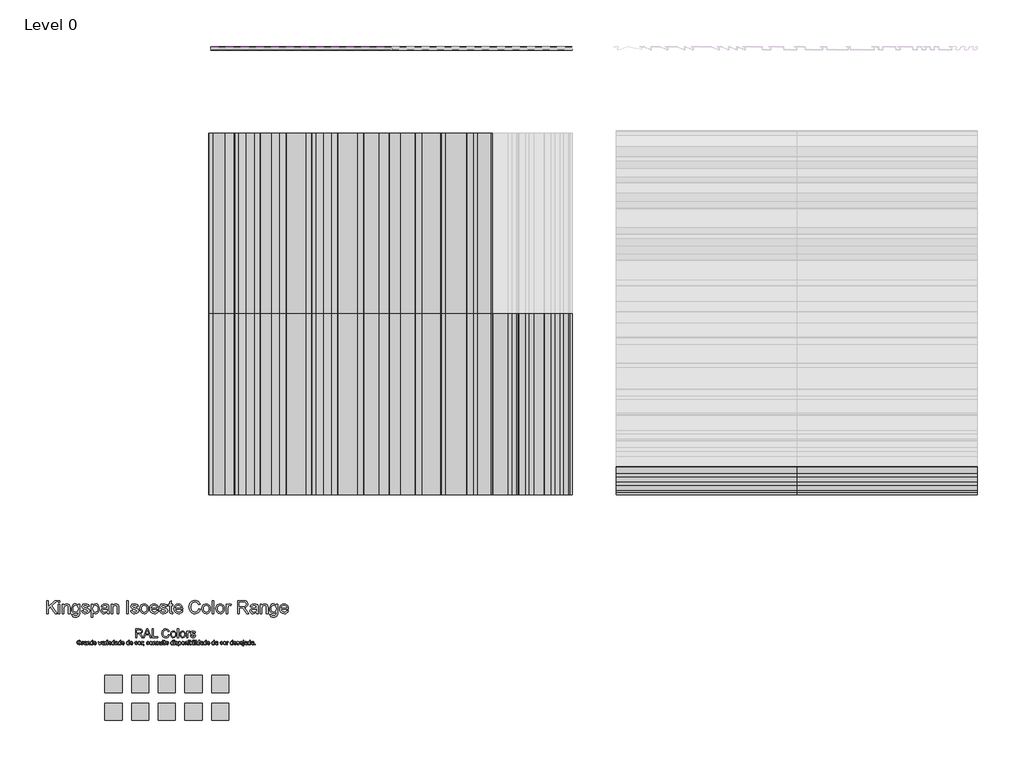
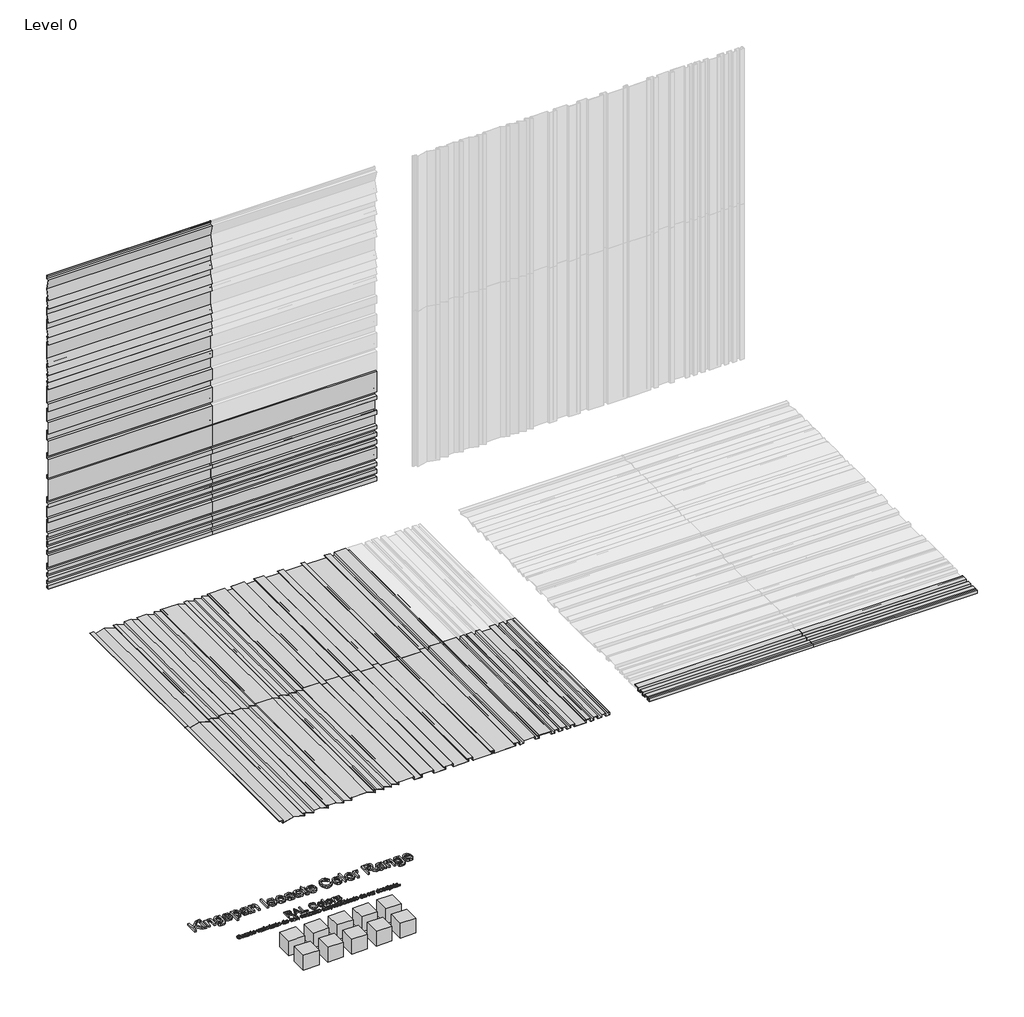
# One storey, part 1 of 2: 57 proxies.
"""IFC4 building model written with IfcOpenShell, lengths in millimetres."""

from ifc_helpers import new_model, si_unit, origin, place, context, project, spatial, transform, mapped, element, save
from components import proxy_32_ks_iso_colour_range_8220f766, proxy_32_ks_iso_colour_range_06d69407, ks_colour_sample_ks_colour_sample_0243efec, mx1_0_standard_panel_ns_afae810e, mx1_0_standard_panel_ns_dc5b759f, mx10_0_standard_panel_ns_11ffd0d8, mx10_0_standard_panel_ns_1686077b, mx11_0_standard_panel_ns_7b6c7506, mx11_0_standard_panel_ns_816acfb4, mx2_0_standard_panel_ns_31f8ef59, mx2_0_standard_panel_ns_8073d0a4, mx3_0_standard_panel_ns_184cfff8, mx3_0_standard_panel_ns_9c684af8, mx4_0_standard_panel_ns_50b23f36, mx4_0_standard_panel_ns_1fe548eb, mx7_0_standard_panel_ns_a6cb7541, mx7_0_standard_panel_ns_ed4f422e, mx8_0_standard_panel_ns_97240bc2, mx8_0_standard_panel_ns_d4d0994c, mx9_0_standard_panel_ns_4979d104, mx9_0_standard_panel_ns_2f6deb61, ps1_0_standard_panel_ns_bf2b593f, ps1_0_standard_panel_ns_1c35b6c5, ps2_0_standard_panel_ns_86166604, ps2_0_standard_panel_ns_643a3163, ps3_0_standard_panel_ns_63d88878, ps3_0_standard_panel_ns_83fd88ae, ps4_0_standard_panel_ns_dd7b3ee9, ps4_0_standard_panel_ns_3b503408, ps9_0_standard_panel_ns_52e81e55, ps9_0_standard_panel_ns_6eacb7c6

model = new_model("IFC4")

# Units and contexts
model_context = context("Model", 3, world=origin())
ifc_project = project(units=[si_unit("LENGTHUNIT", "METRE", prefix="MILLI")], contexts=[model_context])

# Site, building, storey
site = spatial("IfcSite", under=ifc_project)
building = spatial("IfcBuilding", under=site)
storey = spatial("IfcBuildingStorey", under=building, Name="Level 0", Elevation=0.0)

# Proxies
placement = place(None, origin())
proxy_32_ks_iso_colour_range_shape = proxy_32_ks_iso_colour_range_8220f766(model_context)
proxy_32_ks_iso_colour_range_2_shape = proxy_32_ks_iso_colour_range_06d69407(model_context)
element("IfcBuildingElementProxy", 1, Name="32-KS-ISO-Colour Range : Kingspan Isoeste Color Range", ObjectType="32-KS-ISO-Colour Range : Kingspan Isoeste Color Range", at=placement, inside=storey, context=model_context, shape_type="MappedRepresentation", body=[
    mapped(proxy_32_ks_iso_colour_range_shape, transform((-3929.8390717, -2223.0925896, 0.0), x_axis=(1.0, 0.0, 0.0), y_axis=(0.0, 1.0, 0.0), z_axis=(0.0, 0.0, 1.0))),
    mapped(proxy_32_ks_iso_colour_range_2_shape, transform((-3929.8390717, -2223.0925896, 0.0), x_axis=(1.0, 0.0, 0.0), y_axis=(0.0, 1.0, 0.0), z_axis=(0.0, 0.0, 1.0))),
])
ks_colour_sample_ks_colour_sample_shape = ks_colour_sample_ks_colour_sample_0243efec(model_context)
element("IfcBuildingElementProxy", 2, Name="KS_Colour Sample : KS_Colour Sample", ObjectType="KS_Colour Sample : KS_Colour Sample", at=placement, inside=storey, context=model_context, shape_type="MappedRepresentation", body=[
    mapped(ks_colour_sample_ks_colour_sample_shape, transform((-3309.8390717, -2663.0925896, 0.0), x_axis=(1.0, 0.0, 0.0), y_axis=(0.0, 1.0, 0.0), z_axis=(0.0, 0.0, 1.0))),
])
element("IfcBuildingElementProxy", 3, Name="KS_Colour Sample : KS_Colour Sample", ObjectType="KS_Colour Sample : KS_Colour Sample", at=placement, inside=storey, context=model_context, shape_type="MappedRepresentation", body=[
    mapped(ks_colour_sample_ks_colour_sample_shape, transform((-3309.8390717, -2343.0925896, 0.0), x_axis=(1.0, 0.0, 0.0), y_axis=(0.0, 1.0, 0.0), z_axis=(0.0, 0.0, 1.0))),
])
element("IfcBuildingElementProxy", 4, Name="KS_Colour Sample : KS_Colour Sample", ObjectType="KS_Colour Sample : KS_Colour Sample", at=placement, inside=storey, context=model_context, shape_type="MappedRepresentation", body=[
    mapped(ks_colour_sample_ks_colour_sample_shape, transform((-4549.8390717, -2663.0925896, 0.0), x_axis=(1.0, 0.0, 0.0), y_axis=(0.0, 1.0, 0.0), z_axis=(0.0, 0.0, 1.0))),
])
element("IfcBuildingElementProxy", 5, Name="KS_Colour Sample : KS_Colour Sample", ObjectType="KS_Colour Sample : KS_Colour Sample", at=placement, inside=storey, context=model_context, shape_type="MappedRepresentation", body=[
    mapped(ks_colour_sample_ks_colour_sample_shape, transform((-4239.8390717, -2663.0925896, 0.0), x_axis=(1.0, 0.0, 0.0), y_axis=(0.0, 1.0, 0.0), z_axis=(0.0, 0.0, 1.0))),
])
element("IfcBuildingElementProxy", 6, Name="KS_Colour Sample : KS_Colour Sample", ObjectType="KS_Colour Sample : KS_Colour Sample", at=placement, inside=storey, context=model_context, shape_type="MappedRepresentation", body=[
    mapped(ks_colour_sample_ks_colour_sample_shape, transform((-3619.8390717, -2663.0925896, 0.0), x_axis=(1.0, 0.0, 0.0), y_axis=(0.0, 1.0, 0.0), z_axis=(0.0, 0.0, 1.0))),
])
element("IfcBuildingElementProxy", 7, Name="KS_Colour Sample : KS_Colour Sample", ObjectType="KS_Colour Sample : KS_Colour Sample", at=placement, inside=storey, context=model_context, shape_type="MappedRepresentation", body=[
    mapped(ks_colour_sample_ks_colour_sample_shape, transform((-4549.8390717, -2343.0925896, 0.0), x_axis=(1.0, 0.0, 0.0), y_axis=(0.0, 1.0, 0.0), z_axis=(0.0, 0.0, 1.0))),
])
element("IfcBuildingElementProxy", 8, Name="KS_Colour Sample : KS_Colour Sample", ObjectType="KS_Colour Sample : KS_Colour Sample", at=placement, inside=storey, context=model_context, shape_type="MappedRepresentation", body=[
    mapped(ks_colour_sample_ks_colour_sample_shape, transform((-4239.8390717, -2343.0925896, 0.0), x_axis=(1.0, 0.0, 0.0), y_axis=(0.0, 1.0, 0.0), z_axis=(0.0, 0.0, 1.0))),
])
element("IfcBuildingElementProxy", 9, Name="KS_Colour Sample : KS_Colour Sample", ObjectType="KS_Colour Sample : KS_Colour Sample", at=placement, inside=storey, context=model_context, shape_type="MappedRepresentation", body=[
    mapped(ks_colour_sample_ks_colour_sample_shape, transform((-3619.8390717, -2343.0925896, 0.0), x_axis=(1.0, 0.0, 0.0), y_axis=(0.0, 1.0, 0.0), z_axis=(0.0, 0.0, 1.0))),
])
element("IfcBuildingElementProxy", 10, Name="KS_Colour Sample : KS_Colour Sample", ObjectType="KS_Colour Sample : KS_Colour Sample", at=placement, inside=storey, context=model_context, shape_type="MappedRepresentation", body=[
    mapped(ks_colour_sample_ks_colour_sample_shape, transform((-3929.8390717, -2343.0925896, 0.0), x_axis=(1.0, 0.0, 0.0), y_axis=(0.0, 1.0, 0.0), z_axis=(0.0, 0.0, 1.0))),
])
element("IfcBuildingElementProxy", 11, Name="KS_Colour Sample : KS_Colour Sample", ObjectType="KS_Colour Sample : KS_Colour Sample", at=placement, inside=storey, context=model_context, shape_type="MappedRepresentation", body=[
    mapped(ks_colour_sample_ks_colour_sample_shape, transform((-3929.8390717, -2663.0925896, 0.0), x_axis=(1.0, 0.0, 0.0), y_axis=(0.0, 1.0, 0.0), z_axis=(0.0, 0.0, 1.0))),
])
mx1_0_standard_panel_ns_shape = mx1_0_standard_panel_ns_afae810e(model_context)
element("IfcBuildingElementProxy", 12, Name="MX1.0 : Standard Panel_NS", ObjectType="MX1.0 : Standard Panel_NS", at=placement, inside=storey, context=model_context, shape_type="MappedRepresentation", body=[
    mapped(mx1_0_standard_panel_ns_shape, transform((-3417.7637295, 5063.0274074, 0.0), x_axis=(1.0, 0.0, 0.0), y_axis=(0.0, 0.0, 1.0), z_axis=(0.0, -1.0, 0.0))),
])
element("IfcBuildingElementProxy", 13, Name="MX1.0 : Standard Panel_NS", ObjectType="MX1.0 : Standard Panel_NS", at=placement, inside=storey, context=model_context, shape_type="MappedRepresentation", body=[
    mapped(mx1_0_standard_panel_ns_shape, transform((-1317.7637295, 5063.0274074, 0.0), x_axis=(1.0, 0.0, 0.0), y_axis=(0.0, 0.0, 1.0), z_axis=(0.0, -1.0, 0.0))),
])
mx1_0_standard_panel_ns_2_shape = mx1_0_standard_panel_ns_dc5b759f(model_context)
element("IfcBuildingElementProxy", 14, Name="MX1.0 : Standard Panel_NS", ObjectType="MX1.0 : Standard Panel_NS", at=placement, inside=storey, context=model_context, shape_type="MappedRepresentation", body=[
    mapped(mx1_0_standard_panel_ns_2_shape, transform((1289.7088668, -141.6886547, 0.0), x_axis=(1.0, 0.0, 0.0), y_axis=(0.0, 1.0, 0.0), z_axis=(0.0, 0.0, 1.0))),
])
element("IfcBuildingElementProxy", 15, Name="MX1.0 : Standard Panel_NS", ObjectType="MX1.0 : Standard Panel_NS", at=placement, inside=storey, context=model_context, shape_type="MappedRepresentation", body=[
    mapped(mx1_0_standard_panel_ns_2_shape, transform((3389.7088668, -141.6886547, 0.0), x_axis=(1.0, 0.0, 0.0), y_axis=(0.0, 1.0, 0.0), z_axis=(0.0, 0.0, 1.0))),
])
element("IfcBuildingElementProxy", 16, Name="MX1.0 : Standard Panel_NS", ObjectType="MX1.0 : Standard Panel_NS", at=placement, inside=storey, context=model_context, shape_type="MappedRepresentation", body=[
    mapped(mx1_0_standard_panel_ns_2_shape, transform((782.2362705, -141.6886547, 0.0), x_axis=(0.0, 1.0, 0.0), y_axis=(-1.0, 0.0, 0.0), z_axis=(0.0, 0.0, 1.0))),
])
mx10_0_standard_panel_ns_shape = mx10_0_standard_panel_ns_11ffd0d8(model_context)
element("IfcBuildingElementProxy", 17, Name="MX10.0 : Standard Panel_NS", ObjectType="MX10.0 : Standard Panel_NS", at=placement, inside=storey, context=model_context, shape_type="MappedRepresentation", body=[
    mapped(mx10_0_standard_panel_ns_shape, transform((-3417.7637295, 5063.0274074, 2100.0), x_axis=(1.0, 0.0, 0.0), y_axis=(0.0, 0.0, 1.0), z_axis=(0.0, -1.0, 0.0))),
])
mx10_0_standard_panel_ns_2_shape = mx10_0_standard_panel_ns_1686077b(model_context)
element("IfcBuildingElementProxy", 18, Name="MX10.0 : Standard Panel_NS", ObjectType="MX10.0 : Standard Panel_NS", at=placement, inside=storey, context=model_context, shape_type="MappedRepresentation", body=[
    mapped(mx10_0_standard_panel_ns_2_shape, transform((-1317.7637297, -141.6886547, 0.0), x_axis=(0.0, 1.0, 0.0), y_axis=(-1.0, 0.0, 0.0), z_axis=(0.0, 0.0, 1.0))),
])
element("IfcBuildingElementProxy", 19, Name="MX10.0 : Standard Panel_NS", ObjectType="MX10.0 : Standard Panel_NS", at=placement, inside=storey, context=model_context, shape_type="MappedRepresentation", body=[
    mapped(mx10_0_standard_panel_ns_2_shape, transform((-1317.7637297, 1958.3113453, 0.0), x_axis=(0.0, 1.0, 0.0), y_axis=(-1.0, 0.0, 0.0), z_axis=(0.0, 0.0, 1.0))),
])
mx11_0_standard_panel_ns_shape = mx11_0_standard_panel_ns_7b6c7506(model_context)
element("IfcBuildingElementProxy", 20, Name="MX11.0 : Standard Panel_NS", ObjectType="MX11.0 : Standard Panel_NS", at=placement, inside=storey, context=model_context, shape_type="MappedRepresentation", body=[
    mapped(mx11_0_standard_panel_ns_shape, transform((-3417.7637295, 5063.0274074, 2400.0), x_axis=(1.0, 0.0, 0.0), y_axis=(0.0, 0.0, 1.0), z_axis=(0.0, -1.0, 0.0))),
])
mx11_0_standard_panel_ns_2_shape = mx11_0_standard_panel_ns_816acfb4(model_context)
element("IfcBuildingElementProxy", 21, Name="MX11.0 : Standard Panel_NS", ObjectType="MX11.0 : Standard Panel_NS", at=placement, inside=storey, context=model_context, shape_type="MappedRepresentation", body=[
    mapped(mx11_0_standard_panel_ns_2_shape, transform((-1617.7637297, -141.6886547, 0.0), x_axis=(0.0, 1.0, 0.0), y_axis=(-1.0, 0.0, 0.0), z_axis=(0.0, 0.0, 1.0))),
])
element("IfcBuildingElementProxy", 22, Name="MX11.0 : Standard Panel_NS", ObjectType="MX11.0 : Standard Panel_NS", at=placement, inside=storey, context=model_context, shape_type="MappedRepresentation", body=[
    mapped(mx11_0_standard_panel_ns_2_shape, transform((-1617.7637297, 1958.3113453, 0.0), x_axis=(0.0, 1.0, 0.0), y_axis=(-1.0, 0.0, 0.0), z_axis=(0.0, 0.0, 1.0))),
])
mx2_0_standard_panel_ns_shape = mx2_0_standard_panel_ns_31f8ef59(model_context)
element("IfcBuildingElementProxy", 23, Name="MX2.0 : Standard Panel_NS", ObjectType="MX2.0 : Standard Panel_NS", at=placement, inside=storey, context=model_context, shape_type="MappedRepresentation", body=[
    mapped(mx2_0_standard_panel_ns_shape, transform((-3417.7637295, 5063.0274074, 300.0), x_axis=(1.0, 0.0, 0.0), y_axis=(0.0, 0.0, 1.0), z_axis=(0.0, -1.0, 0.0))),
])
element("IfcBuildingElementProxy", 24, Name="MX2.0 : Standard Panel_NS", ObjectType="MX2.0 : Standard Panel_NS", at=placement, inside=storey, context=model_context, shape_type="MappedRepresentation", body=[
    mapped(mx2_0_standard_panel_ns_shape, transform((-1317.7637295, 5063.0274074, 300.0), x_axis=(1.0, 0.0, 0.0), y_axis=(0.0, 0.0, 1.0), z_axis=(0.0, -1.0, 0.0))),
])
mx2_0_standard_panel_ns_2_shape = mx2_0_standard_panel_ns_8073d0a4(model_context)
element("IfcBuildingElementProxy", 25, Name="MX2.0 : Standard Panel_NS", ObjectType="MX2.0 : Standard Panel_NS", at=placement, inside=storey, context=model_context, shape_type="MappedRepresentation", body=[
    mapped(mx2_0_standard_panel_ns_2_shape, transform((482.2362703, -141.6886547, 0.0), x_axis=(0.0, 1.0, 0.0), y_axis=(-1.0, 0.0, 0.0), z_axis=(0.0, 0.0, 1.0))),
])
mx3_0_standard_panel_ns_shape = mx3_0_standard_panel_ns_184cfff8(model_context)
element("IfcBuildingElementProxy", 26, Name="MX3.0 : Standard Panel_NS", ObjectType="MX3.0 : Standard Panel_NS", at=placement, inside=storey, context=model_context, shape_type="MappedRepresentation", body=[
    mapped(mx3_0_standard_panel_ns_shape, transform((-3417.7637295, 5063.0274074, 600.0), x_axis=(1.0, 0.0, 0.0), y_axis=(0.0, 0.0, 1.0), z_axis=(0.0, -1.0, 0.0))),
])
element("IfcBuildingElementProxy", 27, Name="MX3.0 : Standard Panel_NS", ObjectType="MX3.0 : Standard Panel_NS", at=placement, inside=storey, context=model_context, shape_type="MappedRepresentation", body=[
    mapped(mx3_0_standard_panel_ns_shape, transform((-1317.7637295, 5063.0274074, 600.0), x_axis=(1.0, 0.0, 0.0), y_axis=(0.0, 0.0, 1.0), z_axis=(0.0, -1.0, 0.0))),
])
mx3_0_standard_panel_ns_2_shape = mx3_0_standard_panel_ns_9c684af8(model_context)
element("IfcBuildingElementProxy", 28, Name="MX3.0 : Standard Panel_NS", ObjectType="MX3.0 : Standard Panel_NS", at=placement, inside=storey, context=model_context, shape_type="MappedRepresentation", body=[
    mapped(mx3_0_standard_panel_ns_2_shape, transform((182.2362703, -141.6886547, 0.0), x_axis=(0.0, 1.0, 0.0), y_axis=(-1.0, 0.0, 0.0), z_axis=(0.0, 0.0, 1.0))),
])
mx4_0_standard_panel_ns_shape = mx4_0_standard_panel_ns_50b23f36(model_context)
element("IfcBuildingElementProxy", 29, Name="MX4.0 : Standard Panel_NS", ObjectType="MX4.0 : Standard Panel_NS", at=placement, inside=storey, context=model_context, shape_type="MappedRepresentation", body=[
    mapped(mx4_0_standard_panel_ns_shape, transform((-3417.7637295, 5063.0274074, 900.0), x_axis=(1.0, 0.0, 0.0), y_axis=(0.0, 0.0, 1.0), z_axis=(0.0, -1.0, 0.0))),
])
element("IfcBuildingElementProxy", 30, Name="MX4.0 : Standard Panel_NS", ObjectType="MX4.0 : Standard Panel_NS", at=placement, inside=storey, context=model_context, shape_type="MappedRepresentation", body=[
    mapped(mx4_0_standard_panel_ns_shape, transform((-1317.7637295, 5063.0274074, 900.0), x_axis=(1.0, 0.0, 0.0), y_axis=(0.0, 0.0, 1.0), z_axis=(0.0, -1.0, 0.0))),
])
mx4_0_standard_panel_ns_2_shape = mx4_0_standard_panel_ns_1fe548eb(model_context)
element("IfcBuildingElementProxy", 31, Name="MX4.0 : Standard Panel_NS", ObjectType="MX4.0 : Standard Panel_NS", at=placement, inside=storey, context=model_context, shape_type="MappedRepresentation", body=[
    mapped(mx4_0_standard_panel_ns_2_shape, transform((-117.7637297, -141.6886547, 0.0), x_axis=(0.0, 1.0, 0.0), y_axis=(-1.0, 0.0, 0.0), z_axis=(0.0, 0.0, 1.0))),
])
element("IfcBuildingElementProxy", 32, Name="MX4.0 : Standard Panel_NS", ObjectType="MX4.0 : Standard Panel_NS", at=placement, inside=storey, context=model_context, shape_type="MappedRepresentation", body=[
    mapped(mx4_0_standard_panel_ns_2_shape, transform((-117.7637297, 1958.3113453, 0.0), x_axis=(0.0, 1.0, 0.0), y_axis=(-1.0, 0.0, 0.0), z_axis=(0.0, 0.0, 1.0))),
])
mx7_0_standard_panel_ns_shape = mx7_0_standard_panel_ns_a6cb7541(model_context)
element("IfcBuildingElementProxy", 33, Name="MX7.0 : Standard Panel_NS", ObjectType="MX7.0 : Standard Panel_NS", at=placement, inside=storey, context=model_context, shape_type="MappedRepresentation", body=[
    mapped(mx7_0_standard_panel_ns_shape, transform((-3417.7637295, 5063.0274074, 1200.0), x_axis=(1.0, 0.0, 0.0), y_axis=(0.0, 0.0, 1.0), z_axis=(0.0, -1.0, 0.0))),
])
element("IfcBuildingElementProxy", 34, Name="MX7.0 : Standard Panel_NS", ObjectType="MX7.0 : Standard Panel_NS", at=placement, inside=storey, context=model_context, shape_type="MappedRepresentation", body=[
    mapped(mx7_0_standard_panel_ns_shape, transform((-1317.7637295, 5063.0274074, 1200.0), x_axis=(1.0, 0.0, 0.0), y_axis=(0.0, 0.0, 1.0), z_axis=(0.0, -1.0, 0.0))),
])
mx7_0_standard_panel_ns_2_shape = mx7_0_standard_panel_ns_ed4f422e(model_context)
element("IfcBuildingElementProxy", 35, Name="MX7.0 : Standard Panel_NS", ObjectType="MX7.0 : Standard Panel_NS", at=placement, inside=storey, context=model_context, shape_type="MappedRepresentation", body=[
    mapped(mx7_0_standard_panel_ns_2_shape, transform((-417.7637297, -141.6886547, 0.0), x_axis=(0.0, 1.0, 0.0), y_axis=(-1.0, 0.0, 0.0), z_axis=(0.0, 0.0, 1.0))),
])
element("IfcBuildingElementProxy", 36, Name="MX7.0 : Standard Panel_NS", ObjectType="MX7.0 : Standard Panel_NS", at=placement, inside=storey, context=model_context, shape_type="MappedRepresentation", body=[
    mapped(mx7_0_standard_panel_ns_2_shape, transform((-417.7637297, 1958.3113453, 0.0), x_axis=(0.0, 1.0, 0.0), y_axis=(-1.0, 0.0, 0.0), z_axis=(0.0, 0.0, 1.0))),
])
mx8_0_standard_panel_ns_shape = mx8_0_standard_panel_ns_97240bc2(model_context)
element("IfcBuildingElementProxy", 37, Name="MX8.0 : Standard Panel_NS", ObjectType="MX8.0 : Standard Panel_NS", at=placement, inside=storey, context=model_context, shape_type="MappedRepresentation", body=[
    mapped(mx8_0_standard_panel_ns_shape, transform((-3417.7637295, 5063.0274074, 1500.0), x_axis=(1.0, 0.0, 0.0), y_axis=(0.0, 0.0, 1.0), z_axis=(0.0, -1.0, 0.0))),
])
mx8_0_standard_panel_ns_2_shape = mx8_0_standard_panel_ns_d4d0994c(model_context)
element("IfcBuildingElementProxy", 38, Name="MX8.0 : Standard Panel_NS", ObjectType="MX8.0 : Standard Panel_NS", at=placement, inside=storey, context=model_context, shape_type="MappedRepresentation", body=[
    mapped(mx8_0_standard_panel_ns_2_shape, transform((-717.7637297, -141.6886547, 0.0), x_axis=(0.0, 1.0, 0.0), y_axis=(-1.0, 0.0, 0.0), z_axis=(0.0, 0.0, 1.0))),
])
element("IfcBuildingElementProxy", 39, Name="MX8.0 : Standard Panel_NS", ObjectType="MX8.0 : Standard Panel_NS", at=placement, inside=storey, context=model_context, shape_type="MappedRepresentation", body=[
    mapped(mx8_0_standard_panel_ns_2_shape, transform((-717.7637297, 1958.3113453, 0.0), x_axis=(0.0, 1.0, 0.0), y_axis=(-1.0, 0.0, 0.0), z_axis=(0.0, 0.0, 1.0))),
])
mx9_0_standard_panel_ns_shape = mx9_0_standard_panel_ns_4979d104(model_context)
element("IfcBuildingElementProxy", 40, Name="MX9.0 : Standard Panel_NS", ObjectType="MX9.0 : Standard Panel_NS", at=placement, inside=storey, context=model_context, shape_type="MappedRepresentation", body=[
    mapped(mx9_0_standard_panel_ns_shape, transform((-3417.7637295, 5063.0274074, 1800.0), x_axis=(1.0, 0.0, 0.0), y_axis=(0.0, 0.0, 1.0), z_axis=(0.0, -1.0, 0.0))),
])
mx9_0_standard_panel_ns_2_shape = mx9_0_standard_panel_ns_2f6deb61(model_context)
element("IfcBuildingElementProxy", 41, Name="MX9.0 : Standard Panel_NS", ObjectType="MX9.0 : Standard Panel_NS", at=placement, inside=storey, context=model_context, shape_type="MappedRepresentation", body=[
    mapped(mx9_0_standard_panel_ns_2_shape, transform((-1017.7637297, -141.6886547, 0.0), x_axis=(0.0, 1.0, 0.0), y_axis=(-1.0, 0.0, 0.0), z_axis=(0.0, 0.0, 1.0))),
])
element("IfcBuildingElementProxy", 42, Name="MX9.0 : Standard Panel_NS", ObjectType="MX9.0 : Standard Panel_NS", at=placement, inside=storey, context=model_context, shape_type="MappedRepresentation", body=[
    mapped(mx9_0_standard_panel_ns_2_shape, transform((-1017.7637297, 1958.3113453, 0.0), x_axis=(0.0, 1.0, 0.0), y_axis=(-1.0, 0.0, 0.0), z_axis=(0.0, 0.0, 1.0))),
])
ps1_0_standard_panel_ns_shape = ps1_0_standard_panel_ns_bf2b593f(model_context)
element("IfcBuildingElementProxy", 43, Name="PS1.0 : Standard Panel_NS", ObjectType="PS1.0 : Standard Panel_NS", at=placement, inside=storey, context=model_context, shape_type="MappedRepresentation", body=[
    mapped(ps1_0_standard_panel_ns_shape, transform((-3417.7637295, 5063.0274074, 2700.0), x_axis=(1.0, 0.0, 0.0), y_axis=(0.0, 0.0, 1.0), z_axis=(0.0, -1.0, 0.0))),
])
ps1_0_standard_panel_ns_2_shape = ps1_0_standard_panel_ns_1c35b6c5(model_context)
element("IfcBuildingElementProxy", 44, Name="PS1.0 : Standard Panel_NS", ObjectType="PS1.0 : Standard Panel_NS", at=placement, inside=storey, context=model_context, shape_type="MappedRepresentation", body=[
    mapped(ps1_0_standard_panel_ns_2_shape, transform((-1917.7637297, -141.6886547, 0.0), x_axis=(0.0, 1.0, 0.0), y_axis=(-1.0, 0.0, 0.0), z_axis=(0.0, 0.0, 1.0))),
])
element("IfcBuildingElementProxy", 45, Name="PS1.0 : Standard Panel_NS", ObjectType="PS1.0 : Standard Panel_NS", at=placement, inside=storey, context=model_context, shape_type="MappedRepresentation", body=[
    mapped(ps1_0_standard_panel_ns_2_shape, transform((-1917.7637297, 1958.3113453, 0.0), x_axis=(0.0, 1.0, 0.0), y_axis=(-1.0, 0.0, 0.0), z_axis=(0.0, 0.0, 1.0))),
])
ps2_0_standard_panel_ns_shape = ps2_0_standard_panel_ns_86166604(model_context)
element("IfcBuildingElementProxy", 46, Name="PS2.0 : Standard Panel_NS", ObjectType="PS2.0 : Standard Panel_NS", at=placement, inside=storey, context=model_context, shape_type="MappedRepresentation", body=[
    mapped(ps2_0_standard_panel_ns_shape, transform((-3417.7637295, 5063.0274074, 3000.0), x_axis=(1.0, 0.0, 0.0), y_axis=(0.0, 0.0, 1.0), z_axis=(0.0, -1.0, 0.0))),
])
ps2_0_standard_panel_ns_2_shape = ps2_0_standard_panel_ns_643a3163(model_context)
element("IfcBuildingElementProxy", 47, Name="PS2.0 : Standard Panel_NS", ObjectType="PS2.0 : Standard Panel_NS", at=placement, inside=storey, context=model_context, shape_type="MappedRepresentation", body=[
    mapped(ps2_0_standard_panel_ns_2_shape, transform((-2217.7637297, -141.6886547, 0.0), x_axis=(0.0, 1.0, 0.0), y_axis=(-1.0, 0.0, 0.0), z_axis=(0.0, 0.0, 1.0))),
])
element("IfcBuildingElementProxy", 48, Name="PS2.0 : Standard Panel_NS", ObjectType="PS2.0 : Standard Panel_NS", at=placement, inside=storey, context=model_context, shape_type="MappedRepresentation", body=[
    mapped(ps2_0_standard_panel_ns_2_shape, transform((-2217.7637297, 1958.3113453, 0.0), x_axis=(0.0, 1.0, 0.0), y_axis=(-1.0, 0.0, 0.0), z_axis=(0.0, 0.0, 1.0))),
])
ps3_0_standard_panel_ns_shape = ps3_0_standard_panel_ns_63d88878(model_context)
element("IfcBuildingElementProxy", 49, Name="PS3.0 : Standard Panel_NS", ObjectType="PS3.0 : Standard Panel_NS", at=placement, inside=storey, context=model_context, shape_type="MappedRepresentation", body=[
    mapped(ps3_0_standard_panel_ns_shape, transform((-3417.7637295, 5063.0274074, 3300.0), x_axis=(1.0, 0.0, 0.0), y_axis=(0.0, 0.0, 1.0), z_axis=(0.0, -1.0, 0.0))),
])
ps3_0_standard_panel_ns_2_shape = ps3_0_standard_panel_ns_83fd88ae(model_context)
element("IfcBuildingElementProxy", 50, Name="PS3.0 : Standard Panel_NS", ObjectType="PS3.0 : Standard Panel_NS", at=placement, inside=storey, context=model_context, shape_type="MappedRepresentation", body=[
    mapped(ps3_0_standard_panel_ns_2_shape, transform((-2517.7637297, -141.6886547, 0.0), x_axis=(0.0, 1.0, 0.0), y_axis=(-1.0, 0.0, 0.0), z_axis=(0.0, 0.0, 1.0))),
])
element("IfcBuildingElementProxy", 51, Name="PS3.0 : Standard Panel_NS", ObjectType="PS3.0 : Standard Panel_NS", at=placement, inside=storey, context=model_context, shape_type="MappedRepresentation", body=[
    mapped(ps3_0_standard_panel_ns_2_shape, transform((-2517.7637297, 1958.3113453, 0.0), x_axis=(0.0, 1.0, 0.0), y_axis=(-1.0, 0.0, 0.0), z_axis=(0.0, 0.0, 1.0))),
])
ps4_0_standard_panel_ns_shape = ps4_0_standard_panel_ns_dd7b3ee9(model_context)
element("IfcBuildingElementProxy", 52, Name="PS4.0 : Standard Panel_NS", ObjectType="PS4.0 : Standard Panel_NS", at=placement, inside=storey, context=model_context, shape_type="MappedRepresentation", body=[
    mapped(ps4_0_standard_panel_ns_shape, transform((-3417.7637295, 5063.0274074, 3600.0), x_axis=(1.0, 0.0, 0.0), y_axis=(0.0, 0.0, 1.0), z_axis=(0.0, -1.0, 0.0))),
])
ps4_0_standard_panel_ns_2_shape = ps4_0_standard_panel_ns_3b503408(model_context)
element("IfcBuildingElementProxy", 53, Name="PS4.0 : Standard Panel_NS", ObjectType="PS4.0 : Standard Panel_NS", at=placement, inside=storey, context=model_context, shape_type="MappedRepresentation", body=[
    mapped(ps4_0_standard_panel_ns_2_shape, transform((-2817.7637297, -141.6886547, 0.0), x_axis=(0.0, 1.0, 0.0), y_axis=(-1.0, 0.0, 0.0), z_axis=(0.0, 0.0, 1.0))),
])
element("IfcBuildingElementProxy", 54, Name="PS4.0 : Standard Panel_NS", ObjectType="PS4.0 : Standard Panel_NS", at=placement, inside=storey, context=model_context, shape_type="MappedRepresentation", body=[
    mapped(ps4_0_standard_panel_ns_2_shape, transform((-2817.7637297, 1958.3113453, 0.0), x_axis=(0.0, 1.0, 0.0), y_axis=(-1.0, 0.0, 0.0), z_axis=(0.0, 0.0, 1.0))),
])
ps9_0_standard_panel_ns_shape = ps9_0_standard_panel_ns_52e81e55(model_context)
element("IfcBuildingElementProxy", 55, Name="PS9.0 : Standard Panel_NS", ObjectType="PS9.0 : Standard Panel_NS", at=placement, inside=storey, context=model_context, shape_type="MappedRepresentation", body=[
    mapped(ps9_0_standard_panel_ns_shape, transform((-3117.7637295, -141.6886547, 0.0), x_axis=(0.0, 1.0, 0.0), y_axis=(-1.0, 0.0, 0.0), z_axis=(0.0, 0.0, 1.0))),
])
element("IfcBuildingElementProxy", 56, Name="PS9.0 : Standard Panel_NS", ObjectType="PS9.0 : Standard Panel_NS", at=placement, inside=storey, context=model_context, shape_type="MappedRepresentation", body=[
    mapped(ps9_0_standard_panel_ns_shape, transform((-3117.7637295, 1958.3113453, 0.0), x_axis=(0.0, 1.0, 0.0), y_axis=(-1.0, 0.0, 0.0), z_axis=(0.0, 0.0, 1.0))),
])
ps9_0_standard_panel_ns_2_shape = ps9_0_standard_panel_ns_6eacb7c6(model_context)
element("IfcBuildingElementProxy", 57, Name="PS9.0 : Standard Panel_NS", ObjectType="PS9.0 : Standard Panel_NS", at=placement, inside=storey, context=model_context, shape_type="MappedRepresentation", body=[
    mapped(ps9_0_standard_panel_ns_2_shape, transform((-3417.7637295, 5063.0274074, 3900.0), x_axis=(1.0, 0.0, 0.0), y_axis=(0.0, 0.0, 1.0), z_axis=(0.0, -1.0, 0.0))),
])

save(model, "model.ifc")
